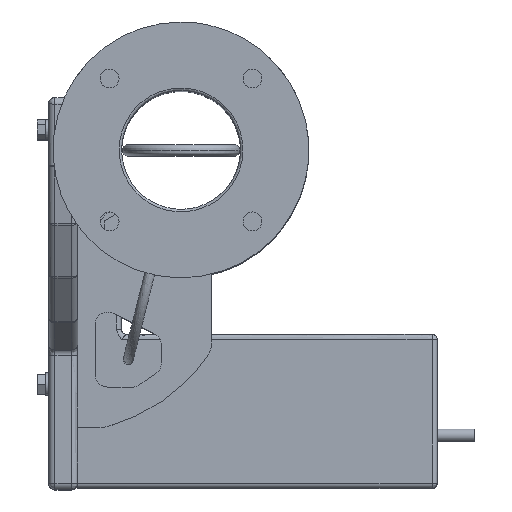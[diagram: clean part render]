
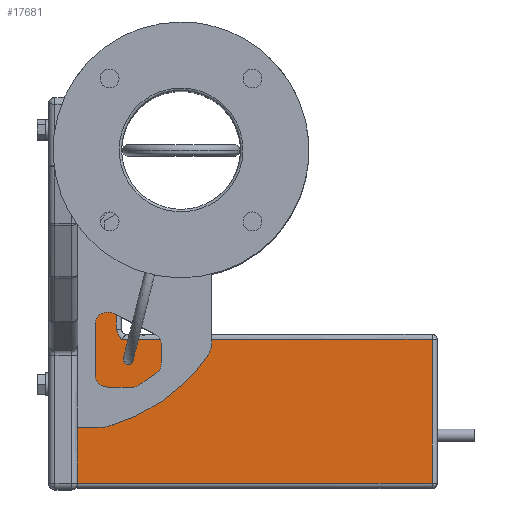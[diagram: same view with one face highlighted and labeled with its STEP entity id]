
A CAD part, top view. The second image highlights one B-rep face of the part: STEP entity #17681.
In plain terms, the highlighted free-form (B-spline) face has degree [1, 1] with [2, 2] control points.
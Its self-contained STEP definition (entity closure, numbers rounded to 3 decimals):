
#17366=CARTESIAN_POINT('',(-40.92,-131.827,34.974));
#17367=VERTEX_POINT('',#17366);
#17374=CARTESIAN_POINT('',(-40.92,-58.569,34.979));
#17375=VERTEX_POINT('',#17374);
#17376=CARTESIAN_POINT('',(-40.92,-58.569,34.979));
#17377=CARTESIAN_POINT('',(-40.92,-131.827,34.974));
#17378=B_SPLINE_CURVE_WITH_KNOTS('',1,(#17376,#17377),.POLYLINE_FORM.,.F.,.U.,(2,2),(0.,1.),.UNSPECIFIED.);
#17379=EDGE_CURVE('',#17375,#17367,#17378,.T.);
#17601=CARTESIAN_POINT('',(99.38,-131.827,34.974));
#17602=VERTEX_POINT('',#17601);
#17609=CARTESIAN_POINT('',(-40.92,-131.827,34.974));
#17610=CARTESIAN_POINT('',(99.38,-131.827,34.974));
#17611=B_SPLINE_CURVE_WITH_KNOTS('',1,(#17609,#17610),.POLYLINE_FORM.,.F.,.U.,(2,2),(0.,0.986),.UNSPECIFIED.);
#17612=EDGE_CURVE('',#17367,#17602,#17611,.T.);
#17617=CARTESIAN_POINT('',(-40.92,-58.569,34.979));
#17618=CARTESIAN_POINT('',(101.38,-58.569,34.979));
#17619=CARTESIAN_POINT('',(-40.92,-131.827,34.974));
#17620=CARTESIAN_POINT('',(101.38,-131.827,34.974));
#17621=B_SPLINE_SURFACE_WITH_KNOTS('',1,1,((#17617,#17618),(#17619,#17620)),.PLANE_SURF.,.F.,.F.,.U.,(2,2),(2,2),(0.,1.),(0.,1.),.UNSPECIFIED.);
#17622=ORIENTED_EDGE('',*,*,#17379,.T.);
#17623=ORIENTED_EDGE('',*,*,#17612,.T.);
#17624=CARTESIAN_POINT('',(99.38,-74.827,34.978));
#17625=VERTEX_POINT('',#17624);
#17626=CARTESIAN_POINT('',(99.38,-74.827,34.978));
#17627=CARTESIAN_POINT('',(99.38,-131.827,34.974));
#17628=B_SPLINE_CURVE_WITH_KNOTS('',1,(#17626,#17627),.POLYLINE_FORM.,.F.,.U.,(2,2),(0.206,0.93),.UNSPECIFIED.);
#17629=EDGE_CURVE('',#17625,#17602,#17628,.T.);
#17630=ORIENTED_EDGE('',*,*,#17629,.F.);
#17631=CARTESIAN_POINT('',(-23.62,-74.827,34.978));
#17632=VERTEX_POINT('',#17631);
#17633=CARTESIAN_POINT('',(-23.62,-74.827,34.978));
#17634=CARTESIAN_POINT('',(99.38,-74.827,34.978));
#17635=B_SPLINE_CURVE_WITH_KNOTS('',1,(#17633,#17634),.POLYLINE_FORM.,.F.,.U.,(2,2),(0.,0.984),.UNSPECIFIED.);
#17636=EDGE_CURVE('',#17632,#17625,#17635,.T.);
#17637=ORIENTED_EDGE('',*,*,#17636,.F.);
#17638=CARTESIAN_POINT('',(-25.62,-70.827,34.978));
#17639=VERTEX_POINT('',#17638);
#17640=CARTESIAN_POINT('',(-23.62,-74.827,34.978));
#17641=CARTESIAN_POINT('',(-23.745,-74.75,34.978));
#17642=CARTESIAN_POINT('',(-24.058,-74.341,34.978));
#17643=CARTESIAN_POINT('',(-24.511,-73.55,34.978));
#17644=CARTESIAN_POINT('',(-24.735,-73.117,34.978));
#17645=CARTESIAN_POINT('',(-24.88,-72.825,34.978));
#17646=CARTESIAN_POINT('',(-25.094,-72.383,34.978));
#17647=CARTESIAN_POINT('',(-25.464,-71.529,34.978));
#17648=CARTESIAN_POINT('',(-25.62,-71.,34.978));
#17649=CARTESIAN_POINT('',(-25.62,-70.827,34.978));
#17650=B_SPLINE_CURVE_WITH_KNOTS('',3,(#17640,#17641,#17642,#17643,#17644,#17645,#17646,#17647,#17648,#17649),.UNSPECIFIED.,.F.,.U.,(4,1,1,2,1,1,4),(0.,0.25,0.417,0.5,0.583,0.75,1.),.UNSPECIFIED.);
#17651=EDGE_CURVE('',#17632,#17639,#17650,.T.);
#17652=ORIENTED_EDGE('',*,*,#17651,.T.);
#17653=CARTESIAN_POINT('',(-25.62,-58.569,34.979));
#17654=VERTEX_POINT('',#17653);
#17655=CARTESIAN_POINT('',(-25.62,-58.569,34.979));
#17656=CARTESIAN_POINT('',(-25.62,-70.827,34.978));
#17657=B_SPLINE_CURVE_WITH_KNOTS('',1,(#17655,#17656),.POLYLINE_FORM.,.F.,.U.,(2,2),(0.185,0.316),.UNSPECIFIED.);
#17658=EDGE_CURVE('',#17654,#17639,#17657,.T.);
#17659=ORIENTED_EDGE('',*,*,#17658,.F.);
#17660=CARTESIAN_POINT('',(-40.92,-58.569,34.979));
#17661=CARTESIAN_POINT('',(-25.62,-58.569,34.979));
#17662=B_SPLINE_CURVE_WITH_KNOTS('',1,(#17660,#17661),.POLYLINE_FORM.,.F.,.U.,(2,2),(0.,0.884),.UNSPECIFIED.);
#17663=EDGE_CURVE('',#17375,#17654,#17662,.T.);
#17664=ORIENTED_EDGE('',*,*,#17663,.F.);
#17665=EDGE_LOOP('',(#17622,#17623,#17630,#17637,#17652,#17659,#17664));
#17666=FACE_OUTER_BOUND('',#17665,.T.);
#17667=CARTESIAN_POINT('',(-20.92,-84.827,34.977));
#17668=VERTEX_POINT('',#17667);
#17669=CARTESIAN_POINT('',(-20.92,-84.827,34.977));
#17670=CARTESIAN_POINT('',(-17.456,-84.827,34.977));
#17671=CARTESIAN_POINT('',(-19.188,-81.827,34.978));
#17672=CARTESIAN_POINT('',(-20.92,-78.827,34.978));
#17673=CARTESIAN_POINT('',(-22.652,-81.827,34.978));
#17674=CARTESIAN_POINT('',(-24.384,-84.827,34.977));
#17675=CARTESIAN_POINT('',(-20.92,-84.827,34.977));
#17676=(BOUNDED_CURVE()B_SPLINE_CURVE(2,(#17669,#17670,#17671,#17672,#17673,#17674,#17675),.CIRCULAR_ARC.,.T.,.U.)B_SPLINE_CURVE_WITH_KNOTS((3,2,2,3),(0.,0.333,0.667,1.),.UNSPECIFIED.)CURVE()GEOMETRIC_REPRESENTATION_ITEM()RATIONAL_B_SPLINE_CURVE((1.,0.5,1.,0.5,1.,0.5,1.))REPRESENTATION_ITEM(''));
#17677=EDGE_CURVE('',#17668,#17668,#17676,.T.);
#17678=ORIENTED_EDGE('',*,*,#17677,.F.);
#17679=EDGE_LOOP('',(#17678));
#17680=FACE_BOUND('',#17679,.T.);
#17681=ADVANCED_FACE('',(#17666,#17680),#17621,.T.);
